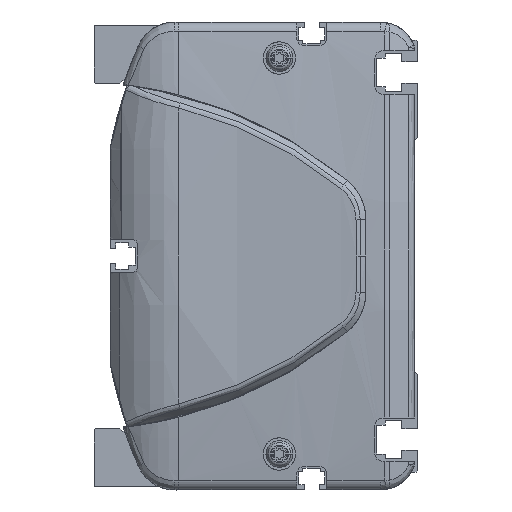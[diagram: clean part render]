
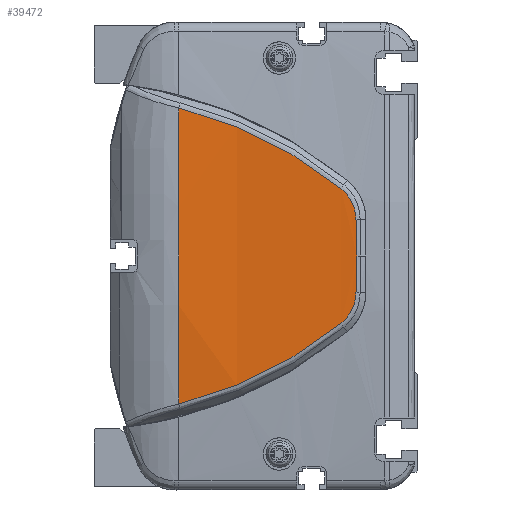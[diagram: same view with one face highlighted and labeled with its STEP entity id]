
A CAD part, left-side view. The second image highlights one B-rep face of the part: STEP entity #39472.
In plain terms, the highlighted cylindrical face has radius 500 mm (diameter 1000 mm), a partial arc.
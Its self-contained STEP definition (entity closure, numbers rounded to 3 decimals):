
#35728=CARTESIAN_POINT('',(486.,66.362,0.));
#35729=DIRECTION('',(0.,-1.,0.));
#35730=DIRECTION('',(-0.997,0.,0.082));
#35731=AXIS2_PLACEMENT_3D('',#35728,#35729,#35730);
#36612=CARTESIAN_POINT('',(-13.648,21.313,
-18.759));
#36613=CARTESIAN_POINT('',(-13.449,27.904,
-24.058));
#36614=CARTESIAN_POINT('',(-12.934,42.195,
-33.27));
#36615=CARTESIAN_POINT('',(-12.471,58.156,
-39.127));
#36616=CARTESIAN_POINT('',(-12.306,66.362,
-41.121));
#36618=CARTESIAN_POINT('',(-12.306,66.362,
41.121));
#36619=CARTESIAN_POINT('',(-12.471,58.156,
39.127));
#36620=CARTESIAN_POINT('',(-12.934,42.195,
33.27));
#36621=CARTESIAN_POINT('',(-13.449,27.904,
24.058));
#36622=CARTESIAN_POINT('',(-13.648,21.313,
18.759));
#36624=CARTESIAN_POINT('',(-13.648,21.313,
18.759));
#36625=CARTESIAN_POINT('',(-13.686,20.035,
17.736));
#36626=CARTESIAN_POINT('',(-13.779,17.936,
15.107));
#36627=CARTESIAN_POINT('',(-13.863,17.152,
11.827));
#36628=CARTESIAN_POINT('',(-13.896,17.124,
10.178));
#36630=CARTESIAN_POINT('',(-13.896,17.124,
10.178));
#36631=CARTESIAN_POINT('',(-13.92,17.107,
9.027));
#36632=CARTESIAN_POINT('',(-13.958,17.067,
6.737));
#36633=CARTESIAN_POINT('',(-13.993,16.98,
3.343));
#36634=CARTESIAN_POINT('',(-14.,16.898,
1.11));
#36635=CARTESIAN_POINT('',(-14.,16.849,
0.));
#36637=CARTESIAN_POINT('',(-14.,16.849,
0.));
#36638=CARTESIAN_POINT('',(-14.,16.898,
-1.11));
#36639=CARTESIAN_POINT('',(-13.993,16.98,
-3.343));
#36640=CARTESIAN_POINT('',(-13.959,17.067,
-6.736));
#36641=CARTESIAN_POINT('',(-13.92,17.107,
-9.029));
#36642=CARTESIAN_POINT('',(-13.896,17.124,
-10.18));
#36644=CARTESIAN_POINT('',(-13.896,17.124,
-10.18));
#36645=CARTESIAN_POINT('',(-13.863,17.152,
-11.828));
#36646=CARTESIAN_POINT('',(-13.779,17.937,
-15.109));
#36647=CARTESIAN_POINT('',(-13.686,20.035,
-17.736));
#36648=CARTESIAN_POINT('',(-13.648,21.313,
-18.759));
#37296=VERTEX_POINT('',#36612);
#37297=VERTEX_POINT('',#36616);
#37298=CARTESIAN_POINT('',(-12.306,66.362,
41.121));
#37299=VERTEX_POINT('',#37298);
#37300=VERTEX_POINT('',#36622);
#37301=VERTEX_POINT('',#36628);
#37302=VERTEX_POINT('',#36635);
#37303=VERTEX_POINT('',#36642);
#39453=CARTESIAN_POINT('',(486.,8.006,0.));
#39454=DIRECTION('',(0.,1.,0.));
#39455=DIRECTION('',(1.,0.,0.));
#39456=AXIS2_PLACEMENT_3D('',#39453,#39454,#39455);
#39457=CYLINDRICAL_SURFACE('',#39456,500.);
#39459=ORIENTED_EDGE('',*,*,#39458,.T.);
#39460=ORIENTED_EDGE('',*,*,#38098,.F.);
#39462=ORIENTED_EDGE('',*,*,#39461,.T.);
#39464=ORIENTED_EDGE('',*,*,#39463,.T.);
#39466=ORIENTED_EDGE('',*,*,#39465,.T.);
#39468=ORIENTED_EDGE('',*,*,#39467,.T.);
#39469=ORIENTED_EDGE('',*,*,#39443,.T.);
#39470=EDGE_LOOP('',(#39459,#39460,#39462,#39464,#39466,#39468,#39469));
#39471=FACE_OUTER_BOUND('',#39470,.F.);
#39472=ADVANCED_FACE('',(#39471),#39457,.T.);
#35732=CIRCLE('',#35731,500.);
#36617=B_SPLINE_CURVE_WITH_KNOTS('',3,(#36612,#36613,#36614,#36615,#36616),
.UNSPECIFIED.,.F.,.F.,(4,1,4),(0.,0.5,1.),.UNSPECIFIED.);
#36623=B_SPLINE_CURVE_WITH_KNOTS('',3,(#36618,#36619,#36620,#36621,#36622),
.UNSPECIFIED.,.F.,.F.,(4,1,4),(0.,0.5,1.),.UNSPECIFIED.);
#36629=B_SPLINE_CURVE_WITH_KNOTS('',3,(#36624,#36625,#36626,#36627,#36628),
.UNSPECIFIED.,.F.,.F.,(4,1,4),(0.,0.5,1.),.UNSPECIFIED.);
#36636=B_SPLINE_CURVE_WITH_KNOTS('',3,(#36630,#36631,#36632,#36633,#36634,
#36635),.UNSPECIFIED.,.F.,.F.,(4,1,1,4),(0.,0.333,
0.667,1.),.UNSPECIFIED.);
#36643=B_SPLINE_CURVE_WITH_KNOTS('',3,(#36637,#36638,#36639,#36640,#36641,
#36642),.UNSPECIFIED.,.F.,.F.,(4,1,1,4),(0.,0.333,
0.667,1.),.UNSPECIFIED.);
#36649=B_SPLINE_CURVE_WITH_KNOTS('',3,(#36644,#36645,#36646,#36647,#36648),
.UNSPECIFIED.,.F.,.F.,(4,1,4),(0.,0.5,1.),.UNSPECIFIED.);
#38098=EDGE_CURVE('',#37299,#37297,#35732,.T.);
#39443=EDGE_CURVE('',#37303,#37296,#36649,.T.);
#39458=EDGE_CURVE('',#37296,#37297,#36617,.T.);
#39461=EDGE_CURVE('',#37299,#37300,#36623,.T.);
#39463=EDGE_CURVE('',#37300,#37301,#36629,.T.);
#39465=EDGE_CURVE('',#37301,#37302,#36636,.T.);
#39467=EDGE_CURVE('',#37302,#37303,#36643,.T.);
